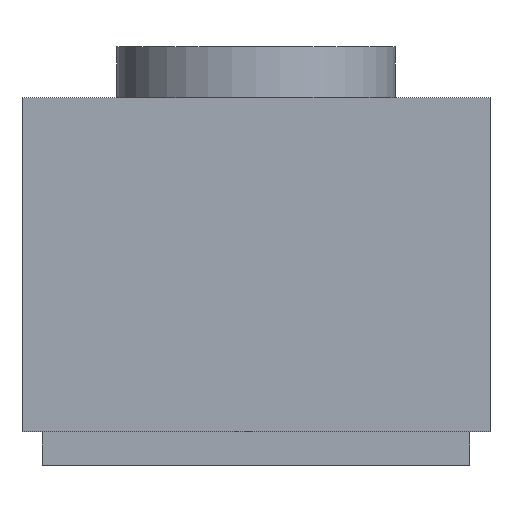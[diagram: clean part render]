
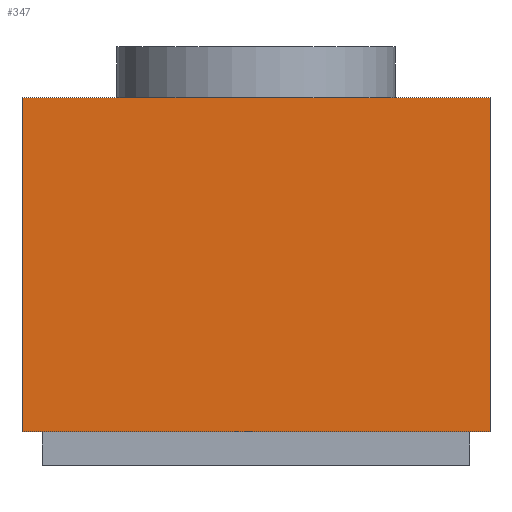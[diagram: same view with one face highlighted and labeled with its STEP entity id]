
A CAD part, left-side view. The second image highlights one B-rep face of the part: STEP entity #347.
In plain terms, the highlighted planar face has unit normal (-1, 0, 0).
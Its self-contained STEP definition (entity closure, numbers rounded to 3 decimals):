
#347 = ADVANCED_FACE('',(#348),#362,.F.);
#348 = FACE_BOUND('',#349,.F.);
#349 = EDGE_LOOP('',(#350,#385,#413,#441));
#350 = ORIENTED_EDGE('',*,*,#351,.F.);
#351 = EDGE_CURVE('',#352,#354,#356,.T.);
#352 = VERTEX_POINT('',#353);
#353 = CARTESIAN_POINT('',(-1.4,-1.75,-1.25));
#354 = VERTEX_POINT('',#355);
#355 = CARTESIAN_POINT('',(-1.4,-1.75,1.25));
#356 = SURFACE_CURVE('',#357,(#361,#373),.PCURVE_S1.);
#357 = LINE('',#358,#359);
#358 = CARTESIAN_POINT('',(-1.4,-1.75,-1.25));
#359 = VECTOR('',#360,1.);
#360 = DIRECTION('',(0.,0.,1.));
#361 = PCURVE('',#362,#367);
#362 = PLANE('',#363);
#363 = AXIS2_PLACEMENT_3D('',#364,#365,#366);
#364 = CARTESIAN_POINT('',(-1.4,-1.75,-1.25));
#365 = DIRECTION('',(1.,0.,-0.));
#366 = DIRECTION('',(0.,0.,1.));
#367 = DEFINITIONAL_REPRESENTATION('',(#368),#372);
#368 = LINE('',#369,#370);
#369 = CARTESIAN_POINT('',(0.,0.));
#370 = VECTOR('',#371,1.);
#371 = DIRECTION('',(1.,0.));
#372 = ( GEOMETRIC_REPRESENTATION_CONTEXT(2) 
PARAMETRIC_REPRESENTATION_CONTEXT() REPRESENTATION_CONTEXT('2D SPACE',''
  ) );
#373 = PCURVE('',#374,#379);
#374 = PLANE('',#375);
#375 = AXIS2_PLACEMENT_3D('',#376,#377,#378);
#376 = CARTESIAN_POINT('',(-1.4,-1.75,-1.25));
#377 = DIRECTION('',(-0.,1.,0.));
#378 = DIRECTION('',(0.,0.,1.));
#379 = DEFINITIONAL_REPRESENTATION('',(#380),#384);
#380 = LINE('',#381,#382);
#381 = CARTESIAN_POINT('',(0.,0.));
#382 = VECTOR('',#383,1.);
#383 = DIRECTION('',(1.,0.));
#384 = ( GEOMETRIC_REPRESENTATION_CONTEXT(2) 
PARAMETRIC_REPRESENTATION_CONTEXT() REPRESENTATION_CONTEXT('2D SPACE',''
  ) );
#385 = ORIENTED_EDGE('',*,*,#386,.T.);
#386 = EDGE_CURVE('',#352,#387,#389,.T.);
#387 = VERTEX_POINT('',#388);
#388 = CARTESIAN_POINT('',(-1.4,1.75,-1.25));
#389 = SURFACE_CURVE('',#390,(#394,#401),.PCURVE_S1.);
#390 = LINE('',#391,#392);
#391 = CARTESIAN_POINT('',(-1.4,-1.75,-1.25));
#392 = VECTOR('',#393,1.);
#393 = DIRECTION('',(-0.,1.,0.));
#394 = PCURVE('',#362,#395);
#395 = DEFINITIONAL_REPRESENTATION('',(#396),#400);
#396 = LINE('',#397,#398);
#397 = CARTESIAN_POINT('',(0.,0.));
#398 = VECTOR('',#399,1.);
#399 = DIRECTION('',(0.,-1.));
#400 = ( GEOMETRIC_REPRESENTATION_CONTEXT(2) 
PARAMETRIC_REPRESENTATION_CONTEXT() REPRESENTATION_CONTEXT('2D SPACE',''
  ) );
#401 = PCURVE('',#402,#407);
#402 = PLANE('',#403);
#403 = AXIS2_PLACEMENT_3D('',#404,#405,#406);
#404 = CARTESIAN_POINT('',(-1.4,-1.75,-1.25));
#405 = DIRECTION('',(0.,0.,1.));
#406 = DIRECTION('',(1.,0.,-0.));
#407 = DEFINITIONAL_REPRESENTATION('',(#408),#412);
#408 = LINE('',#409,#410);
#409 = CARTESIAN_POINT('',(0.,0.));
#410 = VECTOR('',#411,1.);
#411 = DIRECTION('',(0.,1.));
#412 = ( GEOMETRIC_REPRESENTATION_CONTEXT(2) 
PARAMETRIC_REPRESENTATION_CONTEXT() REPRESENTATION_CONTEXT('2D SPACE',''
  ) );
#413 = ORIENTED_EDGE('',*,*,#414,.T.);
#414 = EDGE_CURVE('',#387,#415,#417,.T.);
#415 = VERTEX_POINT('',#416);
#416 = CARTESIAN_POINT('',(-1.4,1.75,1.25));
#417 = SURFACE_CURVE('',#418,(#422,#429),.PCURVE_S1.);
#418 = LINE('',#419,#420);
#419 = CARTESIAN_POINT('',(-1.4,1.75,-1.25));
#420 = VECTOR('',#421,1.);
#421 = DIRECTION('',(0.,0.,1.));
#422 = PCURVE('',#362,#423);
#423 = DEFINITIONAL_REPRESENTATION('',(#424),#428);
#424 = LINE('',#425,#426);
#425 = CARTESIAN_POINT('',(0.,-3.5));
#426 = VECTOR('',#427,1.);
#427 = DIRECTION('',(1.,0.));
#428 = ( GEOMETRIC_REPRESENTATION_CONTEXT(2) 
PARAMETRIC_REPRESENTATION_CONTEXT() REPRESENTATION_CONTEXT('2D SPACE',''
  ) );
#429 = PCURVE('',#430,#435);
#430 = PLANE('',#431);
#431 = AXIS2_PLACEMENT_3D('',#432,#433,#434);
#432 = CARTESIAN_POINT('',(-1.4,1.75,-1.25));
#433 = DIRECTION('',(-0.,1.,0.));
#434 = DIRECTION('',(0.,0.,1.));
#435 = DEFINITIONAL_REPRESENTATION('',(#436),#440);
#436 = LINE('',#437,#438);
#437 = CARTESIAN_POINT('',(0.,0.));
#438 = VECTOR('',#439,1.);
#439 = DIRECTION('',(1.,0.));
#440 = ( GEOMETRIC_REPRESENTATION_CONTEXT(2) 
PARAMETRIC_REPRESENTATION_CONTEXT() REPRESENTATION_CONTEXT('2D SPACE',''
  ) );
#441 = ORIENTED_EDGE('',*,*,#442,.F.);
#442 = EDGE_CURVE('',#354,#415,#443,.T.);
#443 = SURFACE_CURVE('',#444,(#448,#455),.PCURVE_S1.);
#444 = LINE('',#445,#446);
#445 = CARTESIAN_POINT('',(-1.4,-1.75,1.25));
#446 = VECTOR('',#447,1.);
#447 = DIRECTION('',(-0.,1.,0.));
#448 = PCURVE('',#362,#449);
#449 = DEFINITIONAL_REPRESENTATION('',(#450),#454);
#450 = LINE('',#451,#452);
#451 = CARTESIAN_POINT('',(2.5,0.));
#452 = VECTOR('',#453,1.);
#453 = DIRECTION('',(0.,-1.));
#454 = ( GEOMETRIC_REPRESENTATION_CONTEXT(2) 
PARAMETRIC_REPRESENTATION_CONTEXT() REPRESENTATION_CONTEXT('2D SPACE',''
  ) );
#455 = PCURVE('',#456,#461);
#456 = PLANE('',#457);
#457 = AXIS2_PLACEMENT_3D('',#458,#459,#460);
#458 = CARTESIAN_POINT('',(-1.4,-1.75,1.25));
#459 = DIRECTION('',(0.,0.,1.));
#460 = DIRECTION('',(1.,0.,-0.));
#461 = DEFINITIONAL_REPRESENTATION('',(#462),#466);
#462 = LINE('',#463,#464);
#463 = CARTESIAN_POINT('',(0.,0.));
#464 = VECTOR('',#465,1.);
#465 = DIRECTION('',(0.,1.));
#466 = ( GEOMETRIC_REPRESENTATION_CONTEXT(2) 
PARAMETRIC_REPRESENTATION_CONTEXT() REPRESENTATION_CONTEXT('2D SPACE',''
  ) );
